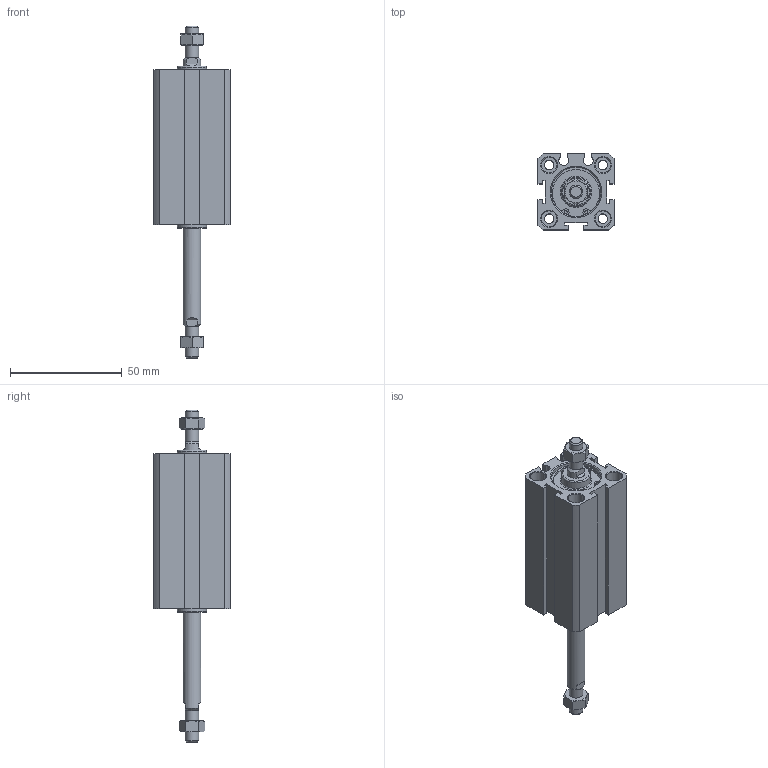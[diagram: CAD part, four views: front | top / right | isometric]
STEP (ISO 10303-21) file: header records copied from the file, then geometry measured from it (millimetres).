
FILE_DESCRIPTION((''),'2;1');
FILE_NAME('I:\3D電子目錄\氣缸\JDD\JDD-BS\JDD20-BS\JDD20x40-BS.stp','2007-02-27T13:34:12',('662F206'),(''),'Autodesk Inventor 10','Autodesk Inventor 10','');
FILE_SCHEMA(('AUTOMOTIVE_DESIGN { 1 0 10303 214 1 1 1 1 }'));
Length unit declared in the file: millimetre
Products named in the file (3): JDD20-BS; R 形環 23
Assembly tree (3 placements, depth 2):
  JDD20-BS
    JDD20-BS
    R 形環 23  x2
Bounding box: 34 x 34 x 148.5 mm (x, y, z)
Volume: 69016.8 mm3; surface area: 23062.8 mm2
Topology: 3 solids, 3 shells, 179 faces, 407 edges, 260 vertices
Faces by surface type: plane 84, cylinder 51, cone 32, bspline 10, torus 2
Full cylindrical faces by diameter (mm): 1.5 x6, 4.3 x4, 6 x4, 7 x8, 8 x1, 13 x2, 22 x4, 23.2 x2
Entity records: 4509 total; most frequent: CARTESIAN_POINT 953, DIRECTION 732, ORIENTED_EDGE 638, EDGE_CURVE 319, AXIS2_PLACEMENT_3D 294, EDGE_LOOP 256, VERTEX_POINT 233, FACE_OUTER_BOUND 167
